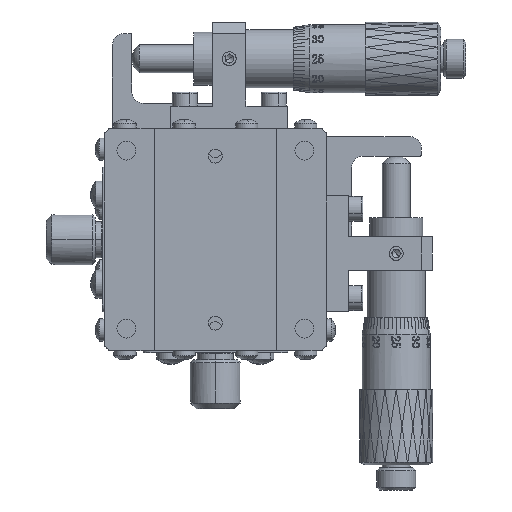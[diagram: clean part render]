
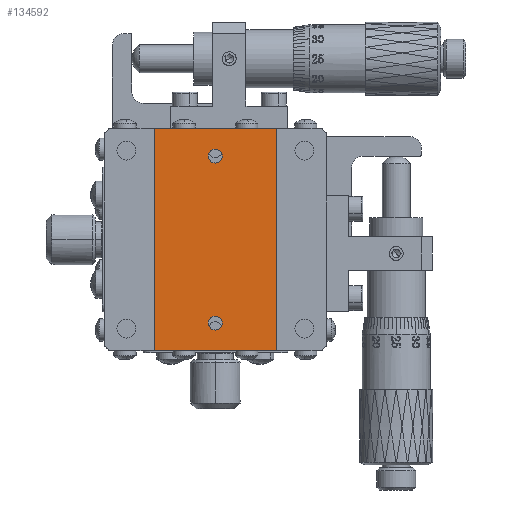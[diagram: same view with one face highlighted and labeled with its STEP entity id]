
A CAD part, front view. The second image highlights one B-rep face of the part: STEP entity #134592.
In plain terms, the highlighted planar face has unit normal (0, -1, 0).
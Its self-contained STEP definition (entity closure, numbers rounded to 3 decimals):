
#1503 = CARTESIAN_POINT ( 'NONE',  ( 20.054, 32.855, 7.887 ) ) ;
#4779 = EDGE_CURVE ( 'NONE', #125727, #20213, #28034, .T. ) ;
#5116 = DIRECTION ( 'NONE',  ( -1., 0., 0. ) ) ;
#5694 = EDGE_CURVE ( 'NONE', #44029, #8629, #83668, .T. ) ;
#6158 = DIRECTION ( 'NONE',  ( 0., 0., 1. ) ) ;
#8629 = VERTEX_POINT ( 'NONE', #159121 ) ;
#10410 = DIRECTION ( 'NONE',  ( 0., 1., 0. ) ) ;
#11851 = CARTESIAN_POINT ( 'NONE',  ( 20.054, 32.855, 37.887 ) ) ;
#12120 = EDGE_CURVE ( 'NONE', #20213, #125727, #18077, .T. ) ;
#12413 = AXIS2_PLACEMENT_3D ( 'NONE', #1503, #138624, #51865 ) ;
#12819 = VECTOR ( 'NONE', #64388, 1000. ) ;
#13168 = LINE ( 'NONE', #51135, #12819 ) ;
#14942 = ORIENTED_EDGE ( 'NONE', *, *, #99986, .T. ) ;
#15135 = ORIENTED_EDGE ( 'NONE', *, *, #95272, .T. ) ;
#18077 = CIRCLE ( 'NONE', #152417, 1.25 ) ;
#19519 = FACE_BOUND ( 'NONE', #21650, .T. ) ;
#20213 = VERTEX_POINT ( 'NONE', #73474 ) ;
#21650 = EDGE_LOOP ( 'NONE', ( #57602, #131869 ) ) ;
#23603 = LINE ( 'NONE', #126045, #81285 ) ;
#28034 = CIRCLE ( 'NONE', #57124, 1.25 ) ;
#30229 = DIRECTION ( 'NONE',  ( 0., 0., 1. ) ) ;
#30389 = VERTEX_POINT ( 'NONE', #154391 ) ;
#30908 = DIRECTION ( 'NONE',  ( 0., 1., 0. ) ) ;
#31053 = LINE ( 'NONE', #68313, #142533 ) ;
#40058 = AXIS2_PLACEMENT_3D ( 'NONE', #85578, #10410, #72395 ) ;
#44029 = VERTEX_POINT ( 'NONE', #72594 ) ;
#45955 = DIRECTION ( 'NONE',  ( 0., 0., 1. ) ) ;
#46422 = ORIENTED_EDGE ( 'NONE', *, *, #5694, .T. ) ;
#48133 = CARTESIAN_POINT ( 'NONE',  ( 9.054, 32.855, 2.887 ) ) ;
#51135 = CARTESIAN_POINT ( 'NONE',  ( 9.054, 32.855, 2.887 ) ) ;
#51865 = DIRECTION ( 'NONE',  ( 0., 0., 1. ) ) ;
#54287 = DIRECTION ( 'NONE',  ( 0., 0., 1. ) ) ;
#57124 = AXIS2_PLACEMENT_3D ( 'NONE', #11851, #112692, #45955 ) ;
#57602 = ORIENTED_EDGE ( 'NONE', *, *, #12120, .T. ) ;
#64388 = DIRECTION ( 'NONE',  ( 0., 0., 1. ) ) ;
#67419 = EDGE_LOOP ( 'NONE', ( #46422, #14942 ) ) ;
#68313 = CARTESIAN_POINT ( 'NONE',  ( 31.054, 32.855, 2.887 ) ) ;
#72395 = DIRECTION ( 'NONE',  ( 0., 0., 1. ) ) ;
#72594 = CARTESIAN_POINT ( 'NONE',  ( 20.054, 32.855, 9.137 ) ) ;
#73474 = CARTESIAN_POINT ( 'NONE',  ( 20.054, 32.855, 39.137 ) ) ;
#75114 = CARTESIAN_POINT ( 'NONE',  ( 31.054, 32.855, 2.887 ) ) ;
#77882 = EDGE_CURVE ( 'NONE', #30389, #138280, #23603, .T. ) ;
#79473 = EDGE_CURVE ( 'NONE', #132026, #82199, #95138, .T. ) ;
#80844 = ORIENTED_EDGE ( 'NONE', *, *, #79473, .F. ) ;
#81119 = CARTESIAN_POINT ( 'NONE',  ( 9.054, 32.855, 2.887 ) ) ;
#81285 = VECTOR ( 'NONE', #120544, 1000. ) ;
#82199 = VERTEX_POINT ( 'NONE', #48133 ) ;
#83668 = CIRCLE ( 'NONE', #12413, 1.25 ) ;
#85198 = CARTESIAN_POINT ( 'NONE',  ( 20.054, 32.855, 36.637 ) ) ;
#85578 = CARTESIAN_POINT ( 'NONE',  ( 9.054, 32.855, 2.887 ) ) ;
#89955 = CIRCLE ( 'NONE', #116440, 1.25 ) ;
#91480 = CARTESIAN_POINT ( 'NONE',  ( 20.054, 32.855, 7.887 ) ) ;
#93934 = DIRECTION ( 'NONE',  ( 0., 1., 0. ) ) ;
#95138 = LINE ( 'NONE', #81119, #146436 ) ;
#95272 = EDGE_CURVE ( 'NONE', #132026, #30389, #31053, .T. ) ;
#99986 = EDGE_CURVE ( 'NONE', #8629, #44029, #89955, .T. ) ;
#106879 = CARTESIAN_POINT ( 'NONE',  ( 9.054, 32.855, 42.887 ) ) ;
#111231 = FACE_BOUND ( 'NONE', #67419, .T. ) ;
#112692 = DIRECTION ( 'NONE',  ( 0., 1., 0. ) ) ;
#116440 = AXIS2_PLACEMENT_3D ( 'NONE', #91480, #93934, #54287 ) ;
#120544 = DIRECTION ( 'NONE',  ( -1., 0., 0. ) ) ;
#121485 = ORIENTED_EDGE ( 'NONE', *, *, #155108, .F. ) ;
#125727 = VERTEX_POINT ( 'NONE', #85198 ) ;
#126045 = CARTESIAN_POINT ( 'NONE',  ( 9.054, 32.855, 42.887 ) ) ;
#130117 = CARTESIAN_POINT ( 'NONE',  ( 20.054, 32.855, 37.887 ) ) ;
#131869 = ORIENTED_EDGE ( 'NONE', *, *, #4779, .T. ) ;
#132026 = VERTEX_POINT ( 'NONE', #75114 ) ;
#133522 = PLANE ( 'NONE',  #40058 ) ;
#134592 = ADVANCED_FACE ( 'NONE', ( #111231, #19519, #135958 ), #133522, .F. ) ;
#135958 = FACE_OUTER_BOUND ( 'NONE', #159535, .T. ) ;
#138280 = VERTEX_POINT ( 'NONE', #106879 ) ;
#138624 = DIRECTION ( 'NONE',  ( 0., 1., 0. ) ) ;
#142533 = VECTOR ( 'NONE', #30229, 1000. ) ;
#146436 = VECTOR ( 'NONE', #5116, 1000. ) ;
#152417 = AXIS2_PLACEMENT_3D ( 'NONE', #130117, #30908, #6158 ) ;
#154391 = CARTESIAN_POINT ( 'NONE',  ( 31.054, 32.855, 42.887 ) ) ;
#155108 = EDGE_CURVE ( 'NONE', #82199, #138280, #13168, .T. ) ;
#158104 = ORIENTED_EDGE ( 'NONE', *, *, #77882, .T. ) ;
#159121 = CARTESIAN_POINT ( 'NONE',  ( 20.054, 32.855, 6.637 ) ) ;
#159535 = EDGE_LOOP ( 'NONE', ( #158104, #121485, #80844, #15135 ) ) ;
